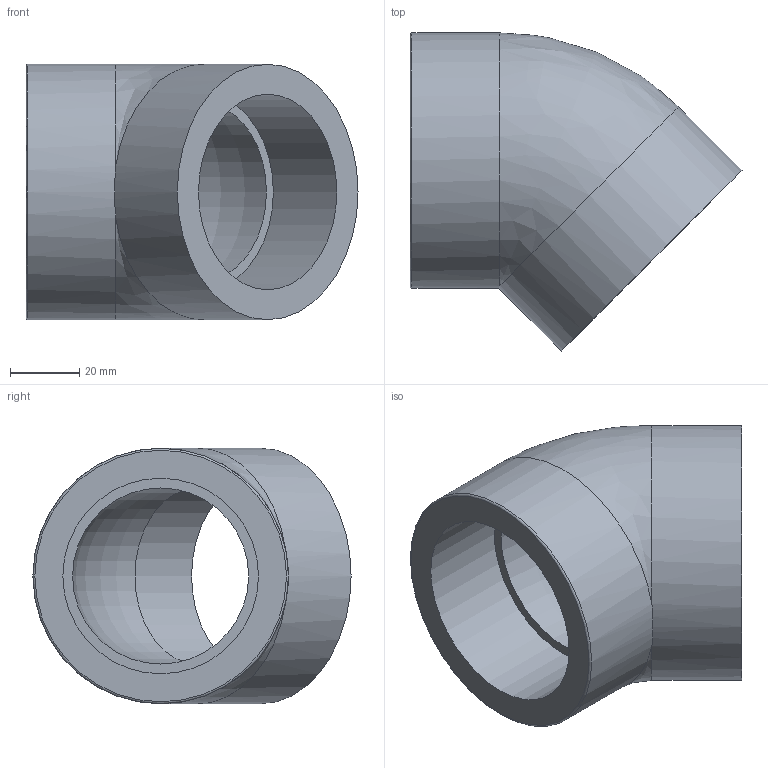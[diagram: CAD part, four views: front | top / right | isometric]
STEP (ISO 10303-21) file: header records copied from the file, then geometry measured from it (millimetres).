
FILE_DESCRIPTION(/* description */ ('PLASSON THREADED 45° ELBOW HF 2"'),/* implementation_level */ '2;1');
FILE_NAME(/* name */ 'C:\Dropbox\KIMPROJECTS-Inventor\99-16-3568-Processing\PVC Catalog 2017\26_09_18\054501\054501020.ipt.stp',/* time_stamp */ '2018-09-27T11:50:36+03:00',/* author */ ('KIM'),/* organization */ (''),/* preprocessor_version */ 'ST-DEVELOPER v15.6',/* originating_system */ 'Autodesk Inventor 2015',/* authorisation */ '');
FILE_SCHEMA (('AUTOMOTIVE_DESIGN { 1 0 10303 214 3 1 1 }'));
Length unit declared in the file: millimetre
Products named in the file (1): 054501020
Bounding box: 96.15 x 92.15 x 74 mm (x, y, z)
Volume: 158201.7 mm3; surface area: 36987.9 mm2
Topology: 1 solids, 1 shells, 11 faces, 22 edges, 13 vertices
Faces by surface type: cylinder 4, plane 4, torus 2, bspline 1
Full cylindrical faces by diameter (mm): 56.656 x2, 74 x2
Entity records: 280 total; most frequent: CARTESIAN_POINT 61, DIRECTION 46, ORIENTED_EDGE 24, AXIS2_PLACEMENT_3D 23, EDGE_LOOP 21, EDGE_CURVE 12, FACE_OUTER_BOUND 11, CIRCLE 11
